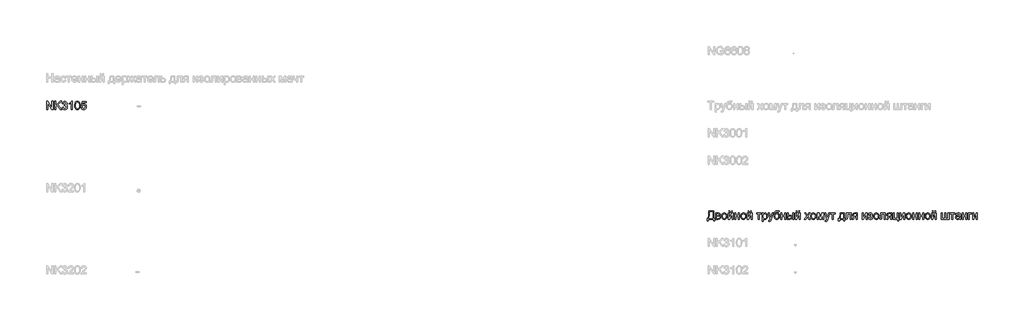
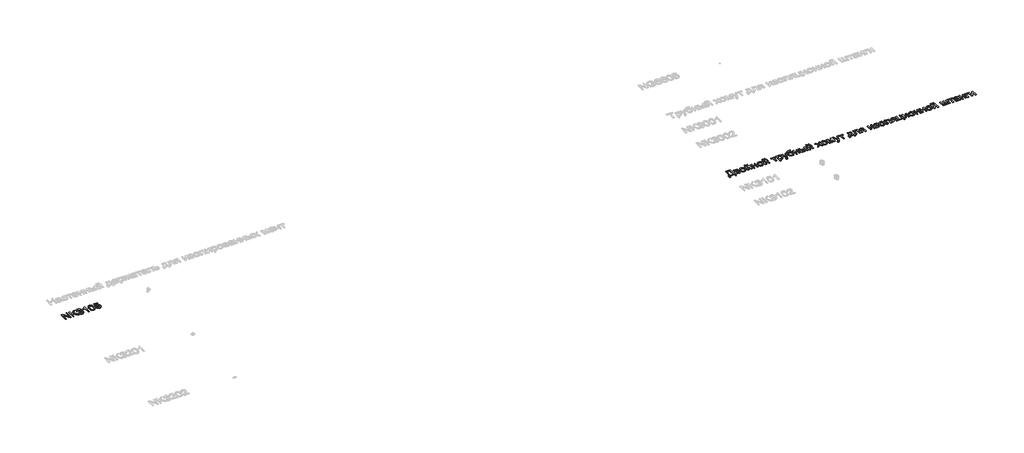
# One storey, part 13 of 124: 2 proxies.
"""IFC4 building model written with IfcOpenShell, lengths in millimetres."""

from ifc_helpers import new_model, si_unit, origin, origin_with_axes, place, context, project, spatial, polyline, outline, extrude, element, save

model = new_model("IFC4")

# Units and contexts
model_context = context("Model", 3, world=origin())
ifc_project = project(units=[si_unit("LENGTHUNIT", "METRE", prefix="MILLI")], contexts=[model_context])

# Site, building, storey
site = spatial("IfcSite", under=ifc_project)
building = spatial("IfcBuilding", under=site)
storey = spatial("IfcBuildingStorey", under=building, Name="Этаж 01", Elevation=0.0)

# Proxies
placement = place(None, origin())
element("IfcBuildingElementProxy", 1, Name="300", ObjectType="300", at=placement, inside=storey, context=model_context, shape_type="SweptSolid", body=[
    extrude(outline(polyline([(1299.8220677, -109548.8731539), (1299.8220677, -109247.5042234), (1340.1419344, -109247.5042234), (1497.5954283, -109486.2596383), (1497.5954283, -109247.5042234), (1535.2665446, -109247.5042234), (1535.2665446, -109548.8731539), (1494.9466779, -109548.8731539), (1337.493184, -109310.0441626), (1337.493184, -109548.8731539), (1299.8220677, -109548.8731539)])), origin_with_axes(), (0.0, 0.0, 1.0), 20.0),
    extrude(outline(polyline([(1601.1909981, -109548.8731539), (1601.1909981, -109247.5042234), (1638.8621144, -109247.5042234), (1638.8621144, -109395.0249035), (1793.3725524, -109247.5042234), (1846.0532541, -109247.5042234), (1716.3380626, -109371.4068794), (1850.7621437, -109548.8731539), (1804.7033179, -109548.8731539), (1689.6298298, -109396.8643135), (1638.8621144, -109445.277584), (1638.8621144, -109548.8731539), (1601.1909981, -109548.8731539)])), origin_with_axes(), (0.0, 0.0, 1.0), 20.0),
    extrude(outline(polyline([(1864.8888123, -109468.8220317), (1902.5599286, -109464.1131422), (1910.9936233, -109487.7863486), (1923.3452613, -109503.7708213), (1940.2218478, -109512.8759007), (1962.2303882, -109515.9109271), (1988.0557043, -109511.7354665), (2007.9949084, -109499.2090845), (2020.7420195, -109480.5206792), (2024.9910566, -109457.8591483), (2020.7788077, -109436.3472486), (2008.1420612, -109418.900445), (1989.0121975, -109407.3397533), (1965.320597, -109403.4861894), (1938.9066697, -109407.6064677), (1943.1005245, -109369.9353514), (1949.1337892, -109370.3768098), (1971.7033496, -109367.6728772), (1991.881677, -109359.5610792), (2006.1187102, -109345.8390807), (2010.864388, -109326.3045468), (2007.4246913, -109310.0349656), (1997.1056014, -109296.837199), (1981.360252, -109288.0908046), (1961.641777, -109285.1753397), (1941.8865139, -109288.1183957), (1925.7364943, -109296.9475636), (1913.9458763, -109311.6628434), (1907.2688181, -109332.2642351), (1869.5977018, -109327.5553456), (1880.689344, -109293.7285961), (1900.426213, -109268.4734972), (1927.4287515, -109252.7465419), (1960.3174018, -109247.5042234), (1983.9998053, -109250.0885945), (2005.7508282, -109257.8417075), (2024.0897457, -109270.0737838), (2037.5358326, -109286.0950447), (2045.7855864, -109304.5535238), (2048.5355043, -109324.0972548), (2045.9235421, -109342.3074136), (2038.0876556, -109358.8253152), (2025.1382094, -109372.8968015), (2007.185568, -109383.7677145), (2030.7668039, -109393.2958581), (2048.2411987, -109409.5194541), (2059.0569293, -109431.5555856), (2062.6621729, -109458.5213359), (2060.8595511, -109477.6328055), (2055.4516858, -109495.235959), (2046.4385769, -109511.3307963), (2033.8202245, -109525.9173174), (2018.4473556, -109538.020635), (2001.1706974, -109546.6658619), (1981.9902499, -109551.852998), (1960.906013, -109553.5820434), (1941.8497257, -109552.1059169), (1924.4856955, -109547.6775374), (1908.8139225, -109540.2969049), (1894.8344067, -109529.9640193), (1883.1127666, -109517.2858861), (1874.2146209, -109502.8695104), (1868.1399694, -109486.7148923), (1864.8888123, -109468.8220317)])), origin_with_axes(), (0.0, 0.0, 1.0), 20.0),
    extrude(outline(polyline([(2236.8910858, -109548.8731539), (2199.2199695, -109548.8731539), (2199.2199695, -109314.0172882), (2163.535416, -109339.437934), (2123.8777369, -109358.4574332), (2123.8777369, -109322.846456), (2153.4646464, -109306.7516188), (2179.0968244, -109287.6033609), (2199.302743, -109267.2410925), (2212.6108741, -109247.5042234), (2236.8910858, -109247.5042234), (2236.8910858, -109548.8731539)])), origin_with_axes(), (0.0, 0.0, 1.0), 20.0),
    extrude(outline(polyline([(2326.359987, -109400.6167098), (2329.128299, -109352.3781832), (2337.4332351, -109313.9069236), (2351.1920217, -109284.6143197), (2370.3218855, -109263.9117604), (2394.9607821, -109251.6061077), (2425.2466673, -109247.5042234), (2448.4600212, -109249.9322446), (2469.245354, -109257.2163081), (2486.6277782, -109269.0713054), (2499.6324068, -109285.2121279), (2509.454856, -109305.50082), (2517.2907425, -109329.7994258), (2522.4226964, -109360.6555281), (2524.1333476, -109400.6167098), (2521.3926268, -109448.579325), (2513.1704642, -109486.9586141), (2499.494451, -109516.2788091), (2480.3921784, -109537.0641418), (2455.6980995, -109549.452568), (2425.2466673, -109553.5820434), (2404.4981228, -109551.7886187), (2386.1040231, -109546.4083445), (2370.0643681, -109537.4412209), (2356.3791578, -109524.8872478), (2343.2457706, -109502.1935272), (2333.8647797, -109473.9171974), (2328.2361852, -109440.0582582), (2326.359987, -109400.6167098)]), holes=[polyline([(2364.0311033, -109400.5431334), (2368.4456873, -109459.7997258), (2373.9639172, -109480.0677245), (2381.6894391, -109494.0955248), (2401.4079141, -109510.4570765), (2425.2466673, -109515.9109271), (2449.0854206, -109510.4386824), (2468.8038956, -109494.0219484), (2476.5294175, -109479.9711555), (2482.0476474, -109459.7077553), (2486.4622313, -109400.5431334), (2482.1948002, -109342.6201133), (2476.8605113, -109322.4187932), (2469.3925068, -109308.0575998), (2449.71082, -109290.8959048), (2424.8052089, -109285.1753397), (2401.2239731, -109290.2153231), (2382.2780503, -109305.3352731), (2374.295011, -109320.9702579), (2368.5928401, -109342.0498962), (2364.0311033, -109400.5431334)])]), origin_with_axes(), (0.0, 0.0, 1.0), 20.0),
    extrude(outline(polyline([(2557.0955744, -109468.8220317), (2594.7666907, -109464.1131422), (2601.6828722, -109486.7286879), (2613.7494017, -109502.9246927), (2630.9110967, -109512.6643685), (2653.1127752, -109515.9109271), (2680.1153136, -109511.3951756), (2700.3488233, -109497.8479212), (2712.9855699, -109476.8326622), (2717.1978187, -109449.9128972), (2713.2522843, -109424.5658277), (2701.4156811, -109405.1784466), (2681.5960386, -109392.8727938), (2653.7013863, -109388.7709096), (2635.4268482, -109390.4079845), (2620.628795, -109395.3192091), (2599.4755803, -109412.3153573), (2561.8044639, -109407.6064677), (2594.7666907, -109252.213113), (2740.7422664, -109252.213113), (2740.7422664, -109289.8842293), (2625.2273199, -109289.8842293), (2609.1140885, -109372.8784074), (2636.0246565, -109356.5444468), (2664.2228114, -109351.0997933), (2682.5686267, -109352.7874519), (2699.4199213, -109357.8504279), (2714.7766953, -109366.2887212), (2728.6389488, -109378.1023317), (2740.1145677, -109392.5692912), (2748.3114385, -109408.9676311), (2753.2295609, -109427.2973515), (2754.868935, -109447.5584524), (2748.964429, -109485.2295687), (2741.5837965, -109502.0233818), (2731.2509109, -109517.4560315), (2715.597532, -109533.2611617), (2697.332191, -109544.5505404), (2676.4548877, -109551.3241677), (2652.9656224, -109553.5820434), (2615.9658907, -109547.7787049), (2600.2872199, -109540.5245319), (2586.4893458, -109530.3686895), (2575.0091283, -109517.8170157), (2566.2834272, -109503.3753481), (2557.0955744, -109468.8220317)])), origin_with_axes(), (0.0, 0.0, 1.0), 20.0),
])
element("IfcBuildingElementProxy", 2, Name="300", ObjectType="300", at=placement, inside=storey, context=model_context, shape_type="SweptSolid", body=[
    extrude(outline(polyline([(25428.0754049, -113247.5042234), (25607.0132074, -113247.5042234), (25607.0132074, -113511.2020376), (25635.2665446, -113511.2020376), (25635.2665446, -113619.506497), (25597.5954283, -113619.506497), (25597.5954283, -113548.8731539), (25404.5309572, -113548.8731539), (25404.5309572, -113619.506497), (25366.8598409, -113619.506497), (25366.8598409, -113511.2020376), (25390.4042886, -113511.2020376), (25406.885402, -113477.0303988), (25418.6576258, -113428.9620176), (25425.7209602, -113366.996894), (25428.0754049, -113291.1350281), (25428.0754049, -113247.5042234)]), holes=[polyline([(25569.3420911, -113285.1753397), (25465.7465212, -113285.1753397), (25465.7465212, -113300.3320779), (25458.0945757, -113403.5597658), (25446.7638103, -113463.2118313), (25428.0754049, -113511.2020376), (25569.3420911, -113511.2020376), (25569.3420911, -113285.1753397)])]), origin_with_axes(), (0.0, 0.0, 1.0), 20.0),
    extrude(outline(polyline([(25677.6465505, -113327.5553456), (25760.6407286, -113327.5553456), (25787.3213703, -113328.8153414), (25806.1477314, -113332.5953289), (25819.9984885, -113339.7322396), (25831.7523182, -113351.0630051), (25839.7813428, -113365.8242701), (25842.4576843, -113383.2526797), (25840.8390035, -113397.2965748), (25835.9829612, -113409.4090895), (25827.8711632, -113419.645406), (25816.4852154, -113428.0607067), (25830.427943, -113435.8873961), (25841.7954967, -113448.4781574), (25849.3554717, -113464.8397091), (25851.8754634, -113483.9787699), (25845.4927108, -113512.6919597), (25830.3175784, -113532.9070753), (25806.2948842, -113544.8816342), (25773.3694456, -113548.8731539), (25677.6465505, -113548.8731539), (25677.6465505, -113327.5553456)]), holes=[polyline([(25715.3176668, -113412.3153573), (25752.5473247, -113412.3153573), (25783.2654713, -113410.4023709), (25798.2014803, -113402.7504254), (25803.1402961, -113396.4228551), (25804.786568, -113388.9180624), (25801.8986943, -113377.6792674), (25793.2350733, -113370.4503862), (25777.5816944, -113366.532443), (25753.7245471, -113365.2264619), (25715.3176668, -113365.2264619), (25715.3176668, -113412.3153573)]), polyline([(25715.3176668, -113511.2020376), (25761.5236454, -113511.2020376), (25786.7051679, -113509.5005834), (25802.5056996, -113504.3962207), (25810.9853796, -113495.1163973), (25814.2043471, -113480.8885612), (25812.5948633, -113471.4615851), (25807.7664121, -113462.7519788), (25800.3535899, -113455.9369649), (25790.9909932, -113452.1937656), (25757.8448254, -113449.9864736), (25715.3176668, -113449.9864736), (25715.3176668, -113511.2020376)])]), origin_with_axes(), (0.0, 0.0, 1.0), 20.0),
    extrude(outline(polyline([(25889.5465797, -113438.2142497), (25891.5837262, -113409.5516438), (25897.6951659, -113384.8529663), (25907.8808986, -113364.1182174), (25922.1409244, -113347.3473969), (25936.4975193, -113336.6282353), (25952.3440362, -113328.9716913), (25969.6804753, -113324.3777649), (25988.5068364, -113322.846456), (26009.2898698, -113324.7111579), (26028.081742, -113330.3052635), (26044.8824529, -113339.6287728), (26059.6920024, -113352.6816859), (26071.7792252, -113369.0225442), (26080.4129558, -113388.2098895), (26085.5931942, -113410.2437218), (26087.3199403, -113435.124041), (26084.2665197, -113473.1814334), (26075.106258, -113502.1521405), (26060.1058697, -113523.8479812), (26039.5320691, -113540.0807742), (26015.0955076, -113550.2067261), (25988.5068364, -113553.5820434), (25967.4203003, -113551.7242393), (25948.4536842, -113546.1508271), (25931.606988, -113536.8618067), (25916.8802119, -113523.8571782), (25904.9217478, -113507.3576707), (25896.3799877, -113487.5840135), (25891.2549317, -113464.5362065), (25889.5465797, -113438.2142497)]), holes=[polyline([(25927.217696, -113438.1406733), (25931.5770976, -113472.2341372), (25944.6553026, -113496.523546), (25964.3369893, -113511.0640818), (25988.5068364, -113515.9109271), (26012.5663189, -113511.0364907), (26032.2112174, -113496.4131814), (26045.2894223, -113471.8018759), (26049.648824, -113436.963451), (26045.2618312, -113403.8632684), (26032.1008528, -113379.9049535), (26012.4283631, -113365.3644176), (25988.5068364, -113360.5175724), (25964.3369893, -113365.3460235), (25944.6553026, -113379.8313771), (25931.5770976, -113404.0656035), (25927.217696, -113438.1406733)])]), origin_with_axes(), (0.0, 0.0, 1.0), 20.0),
    extrude(outline(polyline([(26129.6999461, -113327.5553456), (26167.3710624, -113327.5553456), (26167.3710624, -113496.339605), (26259.9301724, -113327.5553456), (26308.6377486, -113327.5553456), (26308.6377486, -113548.8731539), (26270.9666323, -113548.8731539), (26270.9666323, -113381.1189641), (26178.9961335, -113548.8731539), (26129.6999461, -113548.8731539), (26129.6999461, -113327.5553456)])), origin_with_axes(), (0.0, 0.0, 1.0), 20.0),
    extrude(outline(polyline([(26252.1310741, -113247.5042234), (26280.3844113, -113247.5042234), (26274.3051614, -113271.6280853), (26262.1006762, -113289.4059827), (26244.3227788, -113300.3596691), (26221.5232921, -113304.0108979), (26196.7832279, -113300.3872602), (26177.5981819, -113289.5163473), (26164.4831888, -113271.766041), (26157.9532834, -113247.5042234), (26186.2066206, -113247.5042234), (26190.1797461, -113259.9110437), (26196.801622, -113268.7310146), (26206.1090365, -113274.0009241), (26218.1387778, -113275.7575607), (26231.7136234, -113274.0561064), (26241.5360727, -113268.9517438), (26248.1579486, -113260.1869552), (26252.1310741, -113247.5042234)])), origin_with_axes(), (0.0, 0.0, 1.0), 20.0),
    extrude(outline(polyline([(26365.144423, -113327.5553456), (26402.8155393, -113327.5553456), (26402.8155393, -113412.3153573), (26501.7022196, -113412.3153573), (26501.7022196, -113327.5553456), (26539.373336, -113327.5553456), (26539.373336, -113548.8731539), (26501.7022196, -113548.8731539), (26501.7022196, -113449.9864736), (26402.8155393, -113449.9864736), (26402.8155393, -113548.8731539), (26365.144423, -113548.8731539), (26365.144423, -113327.5553456)])), origin_with_axes(), (0.0, 0.0, 1.0), 20.0),
    extrude(outline(polyline([(26586.4622313, -113438.2142497), (26588.4993779, -113409.5516438), (26594.6108175, -113384.8529663), (26604.7965503, -113364.1182174), (26619.0565761, -113347.3473969), (26633.413171, -113336.6282353), (26649.2596879, -113328.9716913), (26666.5961269, -113324.3777649), (26685.422488, -113322.846456), (26706.2055215, -113324.7111579), (26724.9973937, -113330.3052635), (26741.7981045, -113339.6287728), (26756.6076541, -113352.6816859), (26768.6948769, -113369.0225442), (26777.3286075, -113388.2098895), (26782.5088458, -113410.2437218), (26784.2355919, -113435.124041), (26781.1821714, -113473.1814334), (26772.0219097, -113502.1521405), (26757.0215213, -113523.8479812), (26736.4477208, -113540.0807742), (26712.0111592, -113550.2067261), (26685.422488, -113553.5820434), (26664.3359519, -113551.7242393), (26645.3693358, -113546.1508271), (26628.5226397, -113536.8618067), (26613.7958636, -113523.8571782), (26601.8373995, -113507.3576707), (26593.2956394, -113487.5840135), (26588.1705834, -113464.5362065), (26586.4622313, -113438.2142497)]), holes=[polyline([(26624.1333476, -113438.1406733), (26628.4927493, -113472.2341372), (26641.5709542, -113496.523546), (26661.252641, -113511.0640818), (26685.422488, -113515.9109271), (26709.4819705, -113511.0364907), (26729.1268691, -113496.4131814), (26742.205074, -113471.8018759), (26746.5644756, -113436.963451), (26742.1774828, -113403.8632684), (26729.0165045, -113379.9049535), (26709.3440148, -113365.3644176), (26685.422488, -113360.5175724), (26661.252641, -113365.3460235), (26641.5709542, -113379.8313771), (26628.4927493, -113404.0656035), (26624.1333476, -113438.1406733)])]), origin_with_axes(), (0.0, 0.0, 1.0), 20.0),
    extrude(outline(polyline([(26949.0467258, -113247.5042234), (26977.300063, -113247.5042234), (26971.220813, -113271.6280853), (26959.0163279, -113289.4059827), (26941.2384304, -113300.3596691), (26918.4389438, -113304.0108979), (26893.6988796, -113300.3872602), (26874.5138336, -113289.5163473), (26861.3988404, -113271.766041), (26854.868935, -113247.5042234), (26883.1222722, -113247.5042234), (26887.0953978, -113259.9110437), (26893.7172737, -113268.7310146), (26903.0246882, -113274.0009241), (26915.0544294, -113275.7575607), (26928.629275, -113274.0561064), (26938.4517243, -113268.9517438), (26945.0736002, -113260.1869552), (26949.0467258, -113247.5042234)])), origin_with_axes(), (0.0, 0.0, 1.0), 20.0),
    extrude(outline(polyline([(26826.6155978, -113327.5553456), (26864.2867141, -113327.5553456), (26864.2867141, -113496.339605), (26956.8458241, -113327.5553456), (27005.5534002, -113327.5553456), (27005.5534002, -113548.8731539), (26967.8822839, -113548.8731539), (26967.8822839, -113381.1189641), (26875.9117851, -113548.8731539), (26826.6155978, -113548.8731539), (26826.6155978, -113327.5553456)])), origin_with_axes(), (0.0, 0.0, 1.0), 20.0),
    extrude(outline(polyline([(27160.946755, -113327.5553456), (27339.8845575, -113327.5553456), (27339.8845575, -113365.2264619), (27269.2512144, -113365.2264619), (27269.2512144, -113548.8731539), (27231.5800981, -113548.8731539), (27231.5800981, -113365.2264619), (27160.946755, -113365.2264619), (27160.946755, -113327.5553456)])), origin_with_axes(), (0.0, 0.0, 1.0), 20.0),
    extrude(outline(polyline([(27372.8467842, -113633.6331656), (27372.8467842, -113327.5553456), (27410.5179005, -113327.5553456), (27410.5179005, -113364.4906979), (27422.8051592, -113346.2713421), (27436.5639458, -113333.2575165), (27452.6036008, -113325.4492212), (27471.7334645, -113322.846456), (27497.2092927, -113326.4884878), (27519.4845475, -113337.4145831), (27537.6211299, -113354.9625542), (27550.6809407, -113378.4702137), (27558.5720095, -113406.2269103), (27561.2023658, -113436.5219926), (27558.2317186, -113468.7392583), (27549.3197773, -113497.5536156), (27534.7516503, -113521.5027334), (27514.8124462, -113539.124281), (27491.5898952, -113549.9676028), (27467.1717278, -113553.5820434), (27449.8536829, -113551.1632193), (27434.393442, -113543.906747), (27421.1588872, -113532.9530605), (27410.5179005, -113519.4425943), (27410.5179005, -113633.6331656), (27372.8467842, -113633.6331656)]), holes=[polyline([(27410.5179005, -113439.9800833), (27414.5921936, -113473.7516505), (27426.8150729, -113497.3696746), (27444.8504877, -113511.275614), (27466.3623874, -113515.9109271), (27488.223775, -113511.1100671), (27506.7190423, -113496.707487), (27519.3281977, -113472.2249402), (27523.5312495, -113437.1841801), (27519.4293652, -113403.596554), (27507.1237125, -113379.6474361), (27489.1158888, -113365.3000383), (27467.9074918, -113360.5175724), (27446.6163213, -113365.6035409), (27427.9187189, -113380.8614467), (27414.8681051, -113405.813043), (27410.5179005, -113439.9800833)])]), origin_with_axes(), (0.0, 0.0, 1.0), 20.0),
    extrude(outline(polyline([(27603.5823716, -113633.6331656), (27598.8734821, -113597.3600008), (27618.0033458, -113600.6709388), (27635.8824108, -113596.5138723), (27646.8452942, -113584.9255894), (27657.1459901, -113557.187287), (27660.0890461, -113548.0638135), (27580.0379239, -113327.5553456), (27619.7691794, -113327.5553456), (27662.2227616, -113450.427932), (27677.0116178, -113499.5769665), (27691.800474, -113456.1668911), (27735.4312787, -113327.5553456), (27774.8682286, -113327.5553456), (27697.8337388, -113554.1706546), (27677.8209582, -113603.3196892), (27667.5754447, -113619.0098563), (27655.9687677, -113629.8807692), (27642.4858926, -113636.2267336), (27626.6117845, -113638.3420551), (27603.5823716, -113633.6331656)])), origin_with_axes(), (0.0, 0.0, 1.0), 20.0),
    extrude(outline(polyline([(27961.4579765, -113242.7953339), (27994.4202033, -113242.7953339), (27990.8517479, -113260.70199), (27984.7081186, -113272.1891053), (27976.1916504, -113278.9857252), (27965.5046785, -113282.820895), (27919.3722763, -113285.1753397), (27881.0665635, -113287.3458435), (27857.2370073, -113293.8573548), (27842.98158, -113305.1513321), (27833.398254, -113321.6692337), (27827.7604624, -113343.5398183), (27825.3416383, -113370.8918446), (27840.4891794, -113349.8489945), (27857.9727713, -113334.8394091), (27877.8108079, -113325.8446943), (27900.0216833, -113322.846456), (27920.5449001, -113324.7525446), (27939.2195099, -113330.4708104), (27956.0455127, -113340.0012533), (27971.0229084, -113353.3438734), (27983.3193641, -113369.9376507), (27992.1025467, -113389.221565), (27997.3724563, -113411.1956165), (27999.1290928, -113435.859805), (27995.6434109, -113471.82027), (27985.1863652, -113500.6806125), (27969.9468535, -113523.1122172), (27952.1137738, -113539.7864686), (27929.5258193, -113550.1331497), (27900.0216833, -113553.5820434), (27866.0201899, -113549.1398683), (27840.5351647, -113535.8133431), (27821.78238, -113515.5614392), (27807.9776081, -113490.3431285), (27799.479534, -113452.3685095), (27796.6468427, -113393.8476811), (27798.4333696, -113354.1831043), (27803.7929504, -113321.5680661), (27812.7255851, -113296.0025667), (27825.2312737, -113277.486606), (27841.4433734, -113264.3693137), (27861.4952414, -113254.9998191), (27885.3868777, -113249.3781223), (27913.1182823, -113247.5042234), (27955.0568298, -113246.6580948), (27961.4579765, -113242.7953339)]), holes=[polyline([(27961.4579765, -113434.6825826), (27957.3744864, -113405.0404908), (27945.1240159, -113381.3029051), (27925.4423292, -113365.7139055), (27899.0651901, -113360.5175724), (27871.566011, -113366.0082111), (27860.4789674, -113372.8715096), (27851.1669544, -113382.4801275), (27838.5302078, -113408.1306996), (27834.317959, -113441.1573057), (27838.9716662, -113473.1722363), (27852.9327879, -113496.6706988), (27873.7181207, -113511.10087), (27898.8444609, -113515.9109271), (27924.0995599, -113510.3467119), (27944.0939463, -113493.6540664), (27957.116969, -113467.7827651), (27961.4579765, -113434.6825826)])]), origin_with_axes(), (0.0, 0.0, 1.0), 20.0),
    extrude(outline(polyline([(28046.2179882, -113327.5553456), (28083.8891045, -113327.5553456), (28083.8891045, -113412.3153573), (28182.7757848, -113412.3153573), (28182.7757848, -113327.5553456), (28220.4469011, -113327.5553456), (28220.4469011, -113548.8731539), (28182.7757848, -113548.8731539), (28182.7757848, -113449.9864736), (28083.8891045, -113449.9864736), (28083.8891045, -113548.8731539), (28046.2179882, -113548.8731539), (28046.2179882, -113327.5553456)])), origin_with_axes(), (0.0, 0.0, 1.0), 20.0),
    extrude(outline(polyline([(28484.1447153, -113327.5553456), (28521.8158316, -113327.5553456), (28521.8158316, -113548.8731539), (28484.1447153, -113548.8731539), (28484.1447153, -113327.5553456)])), origin_with_axes(), (0.0, 0.0, 1.0), 20.0),
    extrude(outline(polyline([(28276.9535756, -113327.5553456), (28314.6246919, -113327.5553456), (28314.6246919, -113407.6064677), (28361.1985525, -113407.6064677), (28401.4540398, -113412.3245543), (28417.670738, -113418.2221626), (28431.2800725, -113426.4788141), (28442.0475187, -113436.8094004), (28449.7385517, -113448.9288128), (28454.3531714, -113462.8370515), (28455.891378, -113478.5341164), (28450.731833, -113505.4906696), (28435.2531981, -113528.234974), (28423.391303, -113537.2641777), (28408.4437977, -113543.7136089), (28369.2919564, -113548.8731539), (28276.9535756, -113548.8731539), (28276.9535756, -113327.5553456)]), holes=[polyline([(28314.6246919, -113511.2020376), (28353.3258778, -113511.2020376), (28383.3266545, -113509.2246719), (28403.2842527, -113503.2925747), (28414.4862595, -113493.1666228), (28418.2202617, -113478.6076928), (28415.4519497, -113466.3020401), (28407.1470137, -113455.4311271), (28389.3875103, -113447.8159698), (28358.2554965, -113445.277584), (28314.6246919, -113445.277584), (28314.6246919, -113511.2020376)])]), origin_with_axes(), (0.0, 0.0, 1.0), 20.0),
    extrude(outline(polyline([(28578.322506, -113327.5553456), (28615.9936223, -113327.5553456), (28615.9936223, -113496.339605), (28708.5527323, -113327.5553456), (28757.2603085, -113327.5553456), (28757.2603085, -113548.8731539), (28719.5891922, -113548.8731539), (28719.5891922, -113381.1189641), (28627.6186934, -113548.8731539), (28578.322506, -113548.8731539), (28578.322506, -113327.5553456)])), origin_with_axes(), (0.0, 0.0, 1.0), 20.0),
    extrude(outline(polyline([(28700.753634, -113247.5042234), (28729.0069712, -113247.5042234), (28722.9277213, -113271.6280853), (28710.7232361, -113289.4059827), (28692.9453387, -113300.3596691), (28670.145852, -113304.0108979), (28645.4057878, -113300.3872602), (28626.2207418, -113289.5163473), (28613.1057487, -113271.766041), (28606.5758433, -113247.5042234), (28634.8291805, -113247.5042234), (28638.802306, -113259.9110437), (28645.4241819, -113268.7310146), (28654.7315964, -113274.0009241), (28666.7613377, -113275.7575607), (28680.3361833, -113274.0561064), (28690.1586326, -113268.9517438), (28696.7805085, -113260.1869552), (28700.753634, -113247.5042234)])), origin_with_axes(), (0.0, 0.0, 1.0), 20.0),
    extrude(outline(polyline([(28907.9447737, -113548.8731539), (28988.4373542, -113437.6256385), (28912.6536632, -113327.5553456), (28957.976725, -113327.5553456), (28994.5441954, -113380.5303529), (29011.6139199, -113405.5463286), (29026.4027761, -113385.0920896), (29068.047018, -113327.5553456), (29113.3700798, -113327.5553456), (29033.7604161, -113437.6256385), (29110.4270238, -113548.8731539), (29065.103962, -113548.8731539), (29018.9715598, -113481.9922072), (29010.510274, -113469.7785249), (28953.2678355, -113548.8731539), (28907.9447737, -113548.8731539)])), origin_with_axes(), (0.0, 0.0, 1.0), 20.0),
    extrude(outline(polyline([(29133.9714715, -113438.2142497), (29136.0086181, -113409.5516438), (29142.1200577, -113384.8529663), (29152.3057905, -113364.1182174), (29166.5658163, -113347.3473969), (29180.9224112, -113336.6282353), (29196.7689281, -113328.9716913), (29214.1053671, -113324.3777649), (29232.9317282, -113322.846456), (29253.7147617, -113324.7111579), (29272.5066339, -113330.3052635), (29289.3073447, -113339.6287728), (29304.1168943, -113352.6816859), (29316.2041171, -113369.0225442), (29324.8378477, -113388.2098895), (29330.018086, -113410.2437218), (29331.7448321, -113435.124041), (29328.6914116, -113473.1814334), (29319.5311499, -113502.1521405), (29304.5307616, -113523.8479812), (29283.956961, -113540.0807742), (29259.5203994, -113550.2067261), (29232.9317282, -113553.5820434), (29211.8451921, -113551.7242393), (29192.878576, -113546.1508271), (29176.0318799, -113536.8618067), (29161.3051038, -113523.8571782), (29149.3466397, -113507.3576707), (29140.8048796, -113487.5840135), (29135.6798236, -113464.5362065), (29133.9714715, -113438.2142497)]), holes=[polyline([(29171.6425878, -113438.1406733), (29176.0019895, -113472.2341372), (29189.0801944, -113496.523546), (29208.7618812, -113511.0640818), (29232.9317282, -113515.9109271), (29256.9912107, -113511.0364907), (29276.6361093, -113496.4131814), (29289.7143142, -113471.8018759), (29294.0737158, -113436.963451), (29289.686723, -113403.8632684), (29276.5257447, -113379.9049535), (29256.853255, -113365.3644176), (29232.9317282, -113360.5175724), (29208.7618812, -113365.3460235), (29189.0801944, -113379.8313771), (29176.0019895, -113404.0656035), (29171.6425878, -113438.1406733)])]), origin_with_axes(), (0.0, 0.0, 1.0), 20.0),
    extrude(outline(polyline([(29374.124838, -113327.5553456), (29438.9456455, -113327.5553456), (29488.9040205, -113504.7273145), (29542.7619446, -113327.5553456), (29604.8604254, -113327.5553456), (29604.8604254, -113548.8731539), (29567.1893091, -113548.8731539), (29567.1893091, -113370.6711154), (29513.0370794, -113548.8731539), (29463.5937392, -113548.8731539), (29411.7959543, -113362.1362531), (29411.7959543, -113548.8731539), (29374.124838, -113548.8731539), (29374.124838, -113327.5553456)])), origin_with_axes(), (0.0, 0.0, 1.0), 20.0),
    extrude(outline(polyline([(29661.3670998, -113633.6331656), (29656.6582103, -113597.3600008), (29675.788074, -113600.6709388), (29693.667139, -113596.5138723), (29704.6300225, -113584.9255894), (29714.9307183, -113557.187287), (29717.8737743, -113548.0638135), (29637.8226521, -113327.5553456), (29677.5539076, -113327.5553456), (29720.0074899, -113450.427932), (29734.7963461, -113499.5769665), (29749.5852023, -113456.1668911), (29793.2160069, -113327.5553456), (29832.6529568, -113327.5553456), (29755.618467, -113554.1706546), (29735.6056864, -113603.3196892), (29725.3601729, -113619.0098563), (29713.7534959, -113629.8807692), (29700.2706208, -113636.2267336), (29684.3965127, -113638.3420551), (29661.3670998, -113633.6331656)])), origin_with_axes(), (0.0, 0.0, 1.0), 20.0),
    extrude(outline(polyline([(29845.0137918, -113327.5553456), (30023.9515943, -113327.5553456), (30023.9515943, -113365.2264619), (29953.3182512, -113365.2264619), (29953.3182512, -113548.8731539), (29915.6471349, -113548.8731539), (29915.6471349, -113365.2264619), (29845.0137918, -113365.2264619), (29845.0137918, -113327.5553456)])), origin_with_axes(), (0.0, 0.0, 1.0), 20.0),
    extrude(outline(polyline([(30207.5982863, -113327.5553456), (30348.8649724, -113327.5553456), (30348.8649724, -113511.2020376), (30377.1183096, -113511.2020376), (30377.1183096, -113610.0887179), (30339.4471933, -113610.0887179), (30339.4471933, -113548.8731539), (30184.0538386, -113548.8731539), (30184.0538386, -113610.0887179), (30146.3827223, -113610.0887179), (30146.3827223, -113511.2020376), (30169.92717, -113511.2020376), (30187.0428798, -113480.2723588), (30199.0266358, -113439.3546839), (30205.8784379, -113388.4490128), (30207.5982863, -113327.5553456)]), holes=[polyline([(30240.560513, -113365.2264619), (30237.4703043, -113411.349667), (30231.7313451, -113451.0533314), (30223.3436357, -113484.3374549), (30212.3071758, -113511.2020376), (30311.1938561, -113511.2020376), (30311.1938561, -113365.2264619), (30240.560513, -113365.2264619)])]), origin_with_axes(), (0.0, 0.0, 1.0), 20.0),
    extrude(outline(polyline([(30438.3338736, -113327.5553456), (30607.853897, -113327.5553456), (30607.853897, -113548.6524247), (30570.1827807, -113548.6524247), (30570.1827807, -113365.2264619), (30476.0049899, -113365.2264619), (30476.0049899, -113470.8085945), (30473.4666042, -113519.5161707), (30468.7117294, -113530.5434335), (30459.5238766, -113540.0807742), (30445.5811489, -113546.675059), (30426.5616498, -113548.8731539), (30395.9538678, -113546.9601675), (30395.9538678, -113511.2020376), (30412.8028632, -113511.2020376), (30429.8357995, -113508.884381), (30436.6416165, -113501.5267411), (30438.3338736, -113468.6748789), (30438.3338736, -113327.5553456)])), origin_with_axes(), (0.0, 0.0, 1.0), 20.0),
    extrude(outline(polyline([(30833.8805948, -113327.5553456), (30833.8805948, -113548.8731539), (30796.2094785, -113548.8731539), (30796.2094785, -113464.1131422), (30775.6816632, -113464.1131422), (30747.7226316, -113468.8956081), (30736.557413, -113479.3250627), (30721.4558571, -113501.0484945), (30691.4366863, -113548.8731539), (30647.8794581, -113548.8731539), (30685.6977272, -113488.3933539), (30702.3995698, -113466.6883162), (30717.7770372, -113457.0498079), (30692.0252975, -113449.1587391), (30673.9255033, -113434.1675478), (30663.2201373, -113414.2283437), (30659.6516819, -113391.4932363), (30664.5261184, -113365.7047085), (30679.1494277, -113345.2872578), (30703.0065751, -113331.9883236), (30735.5825257, -113327.5553456), (30833.8805948, -113327.5553456)]), holes=[polyline([(30796.2094785, -113365.2264619), (30746.5454092, -113365.2264619), (30720.8948371, -113367.4061627), (30706.3359071, -113373.9452652), (30699.5760755, -113383.4090295), (30697.3227982, -113394.3627159), (30700.6429332, -113408.7193108), (30710.6033383, -113418.6797158), (30729.0066351, -113424.5014484), (30757.6554454, -113426.4420259), (30796.2094785, -113426.4420259), (30796.2094785, -113365.2264619)])]), origin_with_axes(), (0.0, 0.0, 1.0), 20.0),
    extrude(outline(polyline([(31008.1095078, -113327.5553456), (31045.7806241, -113327.5553456), (31045.7806241, -113496.339605), (31138.3397341, -113327.5553456), (31187.0473102, -113327.5553456), (31187.0473102, -113548.8731539), (31149.3761939, -113548.8731539), (31149.3761939, -113381.1189641), (31057.4056951, -113548.8731539), (31008.1095078, -113548.8731539), (31008.1095078, -113327.5553456)])), origin_with_axes(), (0.0, 0.0, 1.0), 20.0),
    extrude(outline(polyline([(31295.3517696, -113449.9864736), (31295.3517696, -113412.3153573), (31325.0766348, -113410.8438293), (31340.0862202, -113403.0079428), (31345.3837209, -113395.6594999), (31347.1495545, -113386.637194), (31344.7859127, -113375.9226309), (31337.6949872, -113367.6176949), (31326.8700595, -113362.292603), (31313.304411, -113360.5175724), (31299.5916096, -113362.2834059), (31288.1044943, -113367.5809067), (31278.8430651, -113376.4100745), (31271.8073219, -113388.7709096), (31229.4273161, -113384.06202), (31240.666111, -113357.2802108), (31257.7542297, -113338.150347), (31280.6916721, -113326.6724288), (31309.4784382, -113322.846456), (31340.969137, -113327.5093603), (31364.8078903, -113341.4980732), (31379.8174757, -113361.9615092), (31384.8206708, -113386.0485828), (31383.0410417, -113398.4094179), (31377.7021542, -113409.4458777), (31368.8040085, -113419.1579624), (31356.3466044, -113427.5456719), (31370.8871403, -113438.0119146), (31381.2522155, -113451.0165432), (31387.4602241, -113466.5963457), (31389.5295604, -113484.7881103), (31384.2780449, -113512.5172157), (31368.5234984, -113534.4889679), (31343.3327788, -113548.8087745), (31309.7727438, -113553.5820434), (31276.9484728, -113549.1674595), (31251.8313296, -113535.9237077), (31234.4213141, -113513.8507879), (31224.7184265, -113482.9487003), (31267.0984324, -113478.2398108), (31273.4443968, -113494.1691012), (31284.0945805, -113506.0516896), (31297.816579, -113513.4461178), (31313.3779874, -113515.9109271), (31328.5347256, -113513.5472853), (31340.8955606, -113506.4563598), (31349.1177232, -113495.6866144), (31351.8584441, -113482.2865128), (31350.1569898, -113471.6731172), (31345.0526271, -113462.4944614), (31330.5580765, -113451.89946), (31302.7094095, -113449.7657444), (31295.3517696, -113449.9864736)])), origin_with_axes(), (0.0, 0.0, 1.0), 20.0),
    extrude(outline(polyline([(31427.2006767, -113438.2142497), (31429.2378232, -113409.5516438), (31435.3492629, -113384.8529663), (31445.5349956, -113364.1182174), (31459.7950214, -113347.3473969), (31474.1516163, -113336.6282353), (31489.9981332, -113328.9716913), (31507.3345723, -113324.3777649), (31526.1609334, -113322.846456), (31546.9439668, -113324.7111579), (31565.735839, -113330.3052635), (31582.5365499, -113339.6287728), (31597.3460994, -113352.6816859), (31609.4333222, -113369.0225442), (31618.0670528, -113388.2098895), (31623.2472912, -113410.2437218), (31624.9740373, -113435.124041), (31621.9206167, -113473.1814334), (31612.760355, -113502.1521405), (31597.7599667, -113523.8479812), (31577.1861661, -113540.0807742), (31552.7496046, -113550.2067261), (31526.1609334, -113553.5820434), (31505.0743973, -113551.7242393), (31486.1077811, -113546.1508271), (31469.261085, -113536.8618067), (31454.5343089, -113523.8571782), (31442.5758448, -113507.3576707), (31434.0340847, -113487.5840135), (31428.9090287, -113464.5362065), (31427.2006767, -113438.2142497)]), holes=[polyline([(31464.871793, -113438.1406733), (31469.2311946, -113472.2341372), (31482.3093995, -113496.523546), (31501.9910863, -113511.0640818), (31526.1609334, -113515.9109271), (31550.2204159, -113511.0364907), (31569.8653144, -113496.4131814), (31582.9435193, -113471.8018759), (31587.302921, -113436.963451), (31582.9159282, -113403.8632684), (31569.7549498, -113379.9049535), (31550.0824601, -113365.3644176), (31526.1609334, -113360.5175724), (31501.9910863, -113365.3460235), (31482.3093995, -113379.8313771), (31469.2311946, -113404.0656035), (31464.871793, -113438.1406733)])]), origin_with_axes(), (0.0, 0.0, 1.0), 20.0),
    extrude(outline(polyline([(31686.1896013, -113327.5553456), (31855.7096247, -113327.5553456), (31855.7096247, -113548.6524247), (31818.0385083, -113548.6524247), (31818.0385083, -113365.2264619), (31723.8607176, -113365.2264619), (31723.8607176, -113470.8085945), (31721.3223318, -113519.5161707), (31716.567457, -113530.5434335), (31707.3796042, -113540.0807742), (31693.4368766, -113546.675059), (31674.4173774, -113548.8731539), (31643.8095954, -113546.9601675), (31643.8095954, -113511.2020376), (31660.6585908, -113511.2020376), (31677.6915272, -113508.884381), (31684.4973441, -113501.5267411), (31686.1896013, -113468.6748789), (31686.1896013, -113327.5553456)])), origin_with_axes(), (0.0, 0.0, 1.0), 20.0),
    extrude(outline(polyline([(32081.7363225, -113327.5553456), (32081.7363225, -113548.8731539), (32044.0652062, -113548.8731539), (32044.0652062, -113464.1131422), (32023.5373909, -113464.1131422), (31995.5783592, -113468.8956081), (31984.4131407, -113479.3250627), (31969.3115848, -113501.0484945), (31939.292414, -113548.8731539), (31895.7351857, -113548.8731539), (31933.5534548, -113488.3933539), (31950.2552974, -113466.6883162), (31965.6327648, -113457.0498079), (31939.8810251, -113449.1587391), (31921.781231, -113434.1675478), (31911.0758649, -113414.2283437), (31907.5074096, -113391.4932363), (31912.381846, -113365.7047085), (31927.0051553, -113345.2872578), (31950.8623027, -113331.9883236), (31983.4382534, -113327.5553456), (32081.7363225, -113327.5553456)]), holes=[polyline([(32044.0652062, -113365.2264619), (31994.4011368, -113365.2264619), (31968.7505647, -113367.4061627), (31954.1916348, -113373.9452652), (31947.4318031, -113383.4090295), (31945.1785259, -113394.3627159), (31948.4986609, -113408.7193108), (31958.4590659, -113418.6797158), (31976.8623627, -113424.5014484), (32005.5111731, -113426.4420259), (32044.0652062, -113426.4420259), (32044.0652062, -113365.2264619)])]), origin_with_axes(), (0.0, 0.0, 1.0), 20.0),
    extrude(outline(polyline([(32138.2429969, -113327.5553456), (32175.9141133, -113327.5553456), (32175.9141133, -113511.2020376), (32284.2185726, -113511.2020376), (32284.2185726, -113327.5553456), (32321.8896889, -113327.5553456), (32321.8896889, -113511.2020376), (32345.4341366, -113511.2020376), (32345.4341366, -113610.0887179), (32307.7630203, -113610.0887179), (32307.7630203, -113548.8731539), (32138.2429969, -113548.8731539), (32138.2429969, -113327.5553456)])), origin_with_axes(), (0.0, 0.0, 1.0), 20.0),
    extrude(outline(polyline([(32378.3963634, -113327.5553456), (32416.0674797, -113327.5553456), (32416.0674797, -113496.339605), (32508.6265897, -113327.5553456), (32557.3341659, -113327.5553456), (32557.3341659, -113548.8731539), (32519.6630495, -113548.8731539), (32519.6630495, -113381.1189641), (32427.6925508, -113548.8731539), (32378.3963634, -113548.8731539), (32378.3963634, -113327.5553456)])), origin_with_axes(), (0.0, 0.0, 1.0), 20.0),
    extrude(outline(polyline([(32604.4230612, -113438.2142497), (32606.4602078, -113409.5516438), (32612.5716474, -113384.8529663), (32622.7573802, -113364.1182174), (32637.017406, -113347.3473969), (32651.3740009, -113336.6282353), (32667.2205178, -113328.9716913), (32684.5569568, -113324.3777649), (32703.3833179, -113322.846456), (32724.1663514, -113324.7111579), (32742.9582236, -113330.3052635), (32759.7589344, -113339.6287728), (32774.568484, -113352.6816859), (32786.6557068, -113369.0225442), (32795.2894374, -113388.2098895), (32800.4696757, -113410.2437218), (32802.1964218, -113435.124041), (32799.1430013, -113473.1814334), (32789.9827396, -113502.1521405), (32774.9823512, -113523.8479812), (32754.4085507, -113540.0807742), (32729.9719891, -113550.2067261), (32703.3833179, -113553.5820434), (32682.2967818, -113551.7242393), (32663.3301657, -113546.1508271), (32646.4834696, -113536.8618067), (32631.7566935, -113523.8571782), (32619.7982294, -113507.3576707), (32611.2564693, -113487.5840135), (32606.1314133, -113464.5362065), (32604.4230612, -113438.2142497)]), holes=[polyline([(32642.0941775, -113438.1406733), (32646.4535792, -113472.2341372), (32659.5317841, -113496.523546), (32679.2134709, -113511.0640818), (32703.3833179, -113515.9109271), (32727.4428004, -113511.0364907), (32747.087699, -113496.4131814), (32760.1659039, -113471.8018759), (32764.5253055, -113436.963451), (32760.1383127, -113403.8632684), (32746.9773344, -113379.9049535), (32727.3048447, -113365.3644176), (32703.3833179, -113360.5175724), (32679.2134709, -113365.3460235), (32659.5317841, -113379.8313771), (32646.4535792, -113404.0656035), (32642.0941775, -113438.1406733)])]), origin_with_axes(), (0.0, 0.0, 1.0), 20.0),
    extrude(outline(polyline([(32844.5764277, -113327.5553456), (32882.247544, -113327.5553456), (32882.247544, -113412.3153573), (32981.1342243, -113412.3153573), (32981.1342243, -113327.5553456), (33018.8053406, -113327.5553456), (33018.8053406, -113548.8731539), (32981.1342243, -113548.8731539), (32981.1342243, -113449.9864736), (32882.247544, -113449.9864736), (32882.247544, -113548.8731539), (32844.5764277, -113548.8731539), (32844.5764277, -113327.5553456)])), origin_with_axes(), (0.0, 0.0, 1.0), 20.0),
    extrude(outline(polyline([(33075.3120151, -113327.5553456), (33112.9831314, -113327.5553456), (33112.9831314, -113412.3153573), (33211.8698117, -113412.3153573), (33211.8698117, -113327.5553456), (33249.540928, -113327.5553456), (33249.540928, -113548.8731539), (33211.8698117, -113548.8731539), (33211.8698117, -113449.9864736), (33112.9831314, -113449.9864736), (33112.9831314, -113548.8731539), (33075.3120151, -113548.8731539), (33075.3120151, -113327.5553456)])), origin_with_axes(), (0.0, 0.0, 1.0), 20.0),
    extrude(outline(polyline([(33296.6298234, -113438.2142497), (33298.6669699, -113409.5516438), (33304.7784096, -113384.8529663), (33314.9641423, -113364.1182174), (33329.2241681, -113347.3473969), (33343.580763, -113336.6282353), (33359.4272799, -113328.9716913), (33376.763719, -113324.3777649), (33395.5900801, -113322.846456), (33416.3731135, -113324.7111579), (33435.1649857, -113330.3052635), (33451.9656966, -113339.6287728), (33466.7752461, -113352.6816859), (33478.8624689, -113369.0225442), (33487.4961995, -113388.2098895), (33492.6764379, -113410.2437218), (33494.403184, -113435.124041), (33491.3497634, -113473.1814334), (33482.1895017, -113502.1521405), (33467.1891134, -113523.8479812), (33446.6153128, -113540.0807742), (33422.1787513, -113550.2067261), (33395.5900801, -113553.5820434), (33374.503544, -113551.7242393), (33355.5369278, -113546.1508271), (33338.6902317, -113536.8618067), (33323.9634556, -113523.8571782), (33312.0049915, -113507.3576707), (33303.4632314, -113487.5840135), (33298.3381754, -113464.5362065), (33296.6298234, -113438.2142497)]), holes=[polyline([(33334.3009397, -113438.1406733), (33338.6603413, -113472.2341372), (33351.7385462, -113496.523546), (33371.420233, -113511.0640818), (33395.5900801, -113515.9109271), (33419.6495625, -113511.0364907), (33439.2944611, -113496.4131814), (33452.372666, -113471.8018759), (33456.7320677, -113436.963451), (33452.3450749, -113403.8632684), (33439.1840965, -113379.9049535), (33419.5116068, -113365.3644176), (33395.5900801, -113360.5175724), (33371.420233, -113365.3460235), (33351.7385462, -113379.8313771), (33338.6603413, -113404.0656035), (33334.3009397, -113438.1406733)])]), origin_with_axes(), (0.0, 0.0, 1.0), 20.0),
    extrude(outline(polyline([(33536.7831898, -113327.5553456), (33574.4543061, -113327.5553456), (33574.4543061, -113496.339605), (33667.0134161, -113327.5553456), (33715.7209923, -113327.5553456), (33715.7209923, -113548.8731539), (33678.049876, -113548.8731539), (33678.049876, -113381.1189641), (33586.0793772, -113548.8731539), (33536.7831898, -113548.8731539), (33536.7831898, -113327.5553456)])), origin_with_axes(), (0.0, 0.0, 1.0), 20.0),
    extrude(outline(polyline([(33659.2143178, -113247.5042234), (33687.467655, -113247.5042234), (33681.3884051, -113271.6280853), (33669.1839199, -113289.4059827), (33651.4060225, -113300.3596691), (33628.6065358, -113304.0108979), (33603.8664716, -113300.3872602), (33584.6814256, -113289.5163473), (33571.5664325, -113271.766041), (33565.036527, -113247.5042234), (33593.2898643, -113247.5042234), (33597.2629898, -113259.9110437), (33603.8848657, -113268.7310146), (33613.1922802, -113274.0009241), (33625.2220215, -113275.7575607), (33638.7968671, -113274.0561064), (33648.6193163, -113268.9517438), (33655.2411923, -113260.1869552), (33659.2143178, -113247.5042234)])), origin_with_axes(), (0.0, 0.0, 1.0), 20.0),
    extrude(outline(polyline([(33889.9499052, -113327.5553456), (33927.6210215, -113327.5553456), (33927.6210215, -113511.2020376), (34012.3810332, -113511.2020376), (34012.3810332, -113327.5553456), (34050.0521495, -113327.5553456), (34050.0521495, -113511.2020376), (34134.8121612, -113511.2020376), (34134.8121612, -113327.5553456), (34172.4832775, -113327.5553456), (34172.4832775, -113548.8731539), (33889.9499052, -113548.8731539), (33889.9499052, -113327.5553456)])), origin_with_axes(), (0.0, 0.0, 1.0), 20.0),
    extrude(outline(polyline([(34205.4455042, -113327.5553456), (34384.3833067, -113327.5553456), (34384.3833067, -113365.2264619), (34313.7499636, -113365.2264619), (34313.7499636, -113548.8731539), (34276.0788473, -113548.8731539), (34276.0788473, -113365.2264619), (34205.4455042, -113365.2264619), (34205.4455042, -113327.5553456)])), origin_with_axes(), (0.0, 0.0, 1.0), 20.0),
    extrude(outline(polyline([(34558.6122196, -113520.6198167), (34540.613593, -113536.0524664), (34522.0815375, -113546.1508271), (34502.5929888, -113551.7242393), (34481.7248826, -113553.5820434), (34450.2433809, -113549.1122772), (34427.0208299, -113535.7029785), (34412.7010233, -113515.34071), (34407.9277544, -113490.0120347), (34409.7303762, -113474.395444), (34415.1382415, -113460.213593), (34423.4799657, -113448.0734872), (34434.0841642, -113438.5821317), (34460.4613033, -113426.2212967), (34493.0556481, -113420.555914), (34531.572893, -113414.5962256), (34558.3914904, -113407.6064677), (34558.6122196, -113399.2187582), (34556.0186515, -113382.4065511), (34548.2379474, -113371.4068794), (34530.837129, -113363.2398991), (34506.5937055, -113360.5175724), (34484.1529038, -113362.3293912), (34468.4811308, -113367.7648477), (34457.7941588, -113377.8172232), (34450.3077602, -113393.4797991), (34412.6366439, -113388.7709096), (34419.1757464, -113368.1695179), (34428.9338163, -113351.9827101), (34442.8213616, -113339.6034809), (34461.7488903, -113330.4248251), (34484.8978648, -113324.7410483), (34511.4497478, -113322.846456), (34536.9163789, -113324.5203191), (34557.1039034, -113329.5419084), (34572.325021, -113337.0926863), (34582.8924313, -113346.3541155), (34589.9005833, -113357.8044426), (34594.4439259, -113371.9219142), (34596.2833359, -113404.884141), (34596.2833359, -113451.7523072), (34598.1963223, -113517.1985141), (34605.701115, -113548.8731539), (34568.0299987, -113548.8731539), (34558.6122196, -113520.6198167)]), holes=[polyline([(34558.6122196, -113445.277584), (34497.838114, -113456.8290787), (34465.4277102, -113462.9359198), (34450.7492186, -113472.8687337), (34445.5988707, -113487.3632843), (34448.4039709, -113498.565291), (34456.8192715, -113507.7439468), (34470.6608316, -113513.869182), (34489.7447101, -113515.9109271), (34509.9782199, -113513.6576499), (34527.8572848, -113506.8978182), (34542.3518354, -113496.9374132), (34552.4318021, -113485.0824159), (34556.9015683, -113472.8687337), (34558.3914904, -113455.9461619), (34558.6122196, -113445.277584)])]), origin_with_axes(), (0.0, 0.0, 1.0), 20.0),
    extrude(outline(polyline([(34648.0811208, -113327.5553456), (34685.7522371, -113327.5553456), (34685.7522371, -113412.3153573), (34784.6389175, -113412.3153573), (34784.6389175, -113327.5553456), (34822.3100338, -113327.5553456), (34822.3100338, -113548.8731539), (34784.6389175, -113548.8731539), (34784.6389175, -113449.9864736), (34685.7522371, -113449.9864736), (34685.7522371, -113548.8731539), (34648.0811208, -113548.8731539), (34648.0811208, -113327.5553456)])), origin_with_axes(), (0.0, 0.0, 1.0), 20.0),
    extrude(outline(polyline([(34878.8167082, -113327.5553456), (35001.2478362, -113327.5553456), (35001.2478362, -113365.2264619), (34916.4878245, -113365.2264619), (34916.4878245, -113548.8731539), (34878.8167082, -113548.8731539), (34878.8167082, -113327.5553456)])), origin_with_axes(), (0.0, 0.0, 1.0), 20.0),
    extrude(outline(polyline([(35029.5011734, -113327.5553456), (35067.1722897, -113327.5553456), (35067.1722897, -113496.339605), (35159.7313997, -113327.5553456), (35208.4389759, -113327.5553456), (35208.4389759, -113548.8731539), (35170.7678596, -113548.8731539), (35170.7678596, -113381.1189641), (35078.7973608, -113548.8731539), (35029.5011734, -113548.8731539), (35029.5011734, -113327.5553456)])), origin_with_axes(), (0.0, 0.0, 1.0), 20.0),
])

save(model, "model.ifc")
